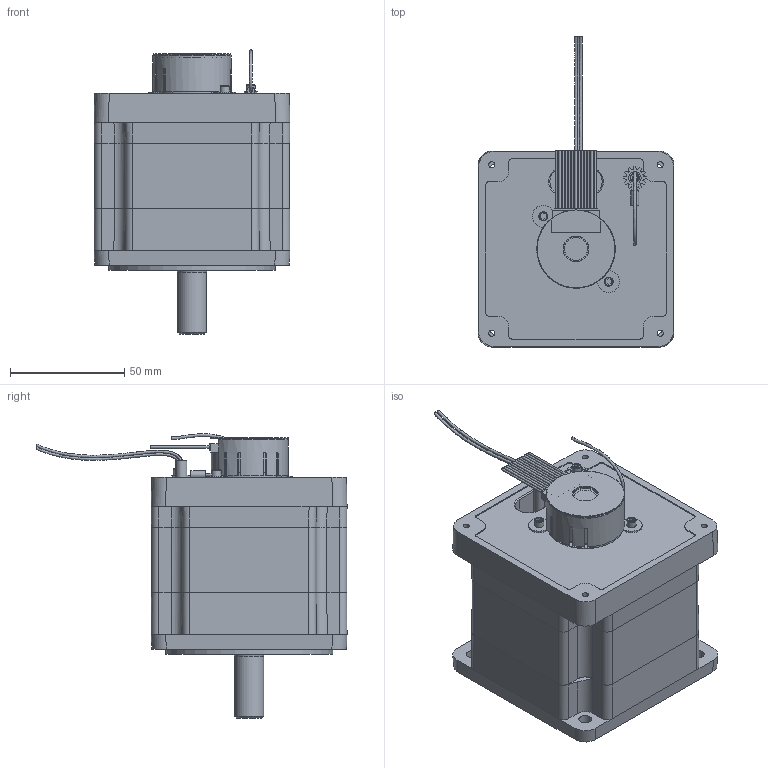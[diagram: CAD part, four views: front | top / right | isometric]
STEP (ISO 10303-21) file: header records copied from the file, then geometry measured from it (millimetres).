
FILE_DESCRIPTION((''),'2;1');
FILE_NAME('C:\CAD_work\Dummy_Modeling_Project_02-12-05\3D MODELS\BE341_FO.stp','2005-12-20T16:08:22',('jevans'),(''),'Autodesk Inventor 10','Autodesk Inventor 10','');
FILE_SCHEMA(('AUTOMOTIVE_DESIGN { 1 0 10303 214 1 1 1 1 }'));
Length unit declared in the file: inch
Products named in the file (1): BE34_FO
Bounding box: 85.66 x 135.58 x 124.35 mm (x, y, z)
Volume: 502120.6 mm3; surface area: 63640.3 mm2
Topology: 7 solids, 7 shells, 620 faces, 1591 edges, 1038 vertices
Faces by surface type: plane 350, cylinder 146, bspline 108, cone 15, torus 1
Full cylindrical faces by diameter (mm): 1.016 x13, 1.27 x1, 2.159 x2, 2.5 x2, 3.02 x1, 3.871 x1, 4.013 x3, 4.762 x1, 4.953 x1, 9.525 x2, 10.16 x1, 10.312 x1, 11.176 x1, 12.7 x1, 14.994 x1, 15 x1, 32 x1, 32.007 x1, 32.995 x1, 34.036 x1, 35.001 x1, 36.779 x1, 37.109 x1, 41.326 x3, 73.025 x1
Entity records: 22407 total; most frequent: CARTESIAN_POINT 8161, ORIENTED_EDGE 2982, DIRECTION 2651, EDGE_CURVE 1491, VERTEX_POINT 1013, VECTOR 935, LINE 935, AXIS2_PLACEMENT_3D 858
